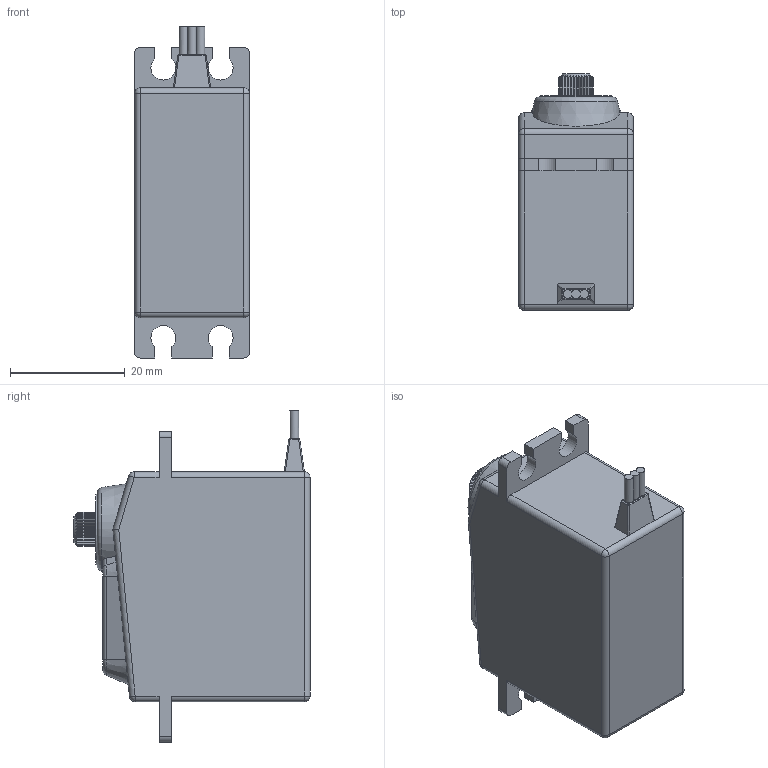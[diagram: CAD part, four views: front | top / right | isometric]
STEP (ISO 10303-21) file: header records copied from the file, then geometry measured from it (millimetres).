
FILE_DESCRIPTION(('STEP AP203'), '1');
FILE_NAME('Ñåðâîïðèâîä.stp', '2011-11-27T15:13:42', ('UNSPECIFIED'), ('UNSPECIFIED'), 'ASCON STEP Converter 1.0', 'Kompas 3D', '');
FILE_SCHEMA(('CONFIG_CONTROL_DESIGN'));
Length unit declared in the file: millimetre
Products named in the file (1): 1
Bounding box: 20 x 41.08 x 57.75 mm (x, y, z)
Volume: 28357.3 mm3; surface area: 6549.8 mm2
Topology: 1 solids, 1 shells, 228 faces, 613 edges, 380 vertices
Faces by surface type: plane 114, cylinder 85, bspline 10, sphere 8, cone 6, torus 5
Full cylindrical faces by diameter (mm): 3 x1, 6.1 x1, 7.1 x1, 12.262 x1
Entity records: 8597 total; most frequent: CARTESIAN_POINT 2213, ORIENTED_EDGE 1202, DIRECTION 1096, EDGE_CURVE 601, AXIS2_PLACEMENT_3D 384, VERTEX_POINT 380, LINE 328, VECTOR 328
